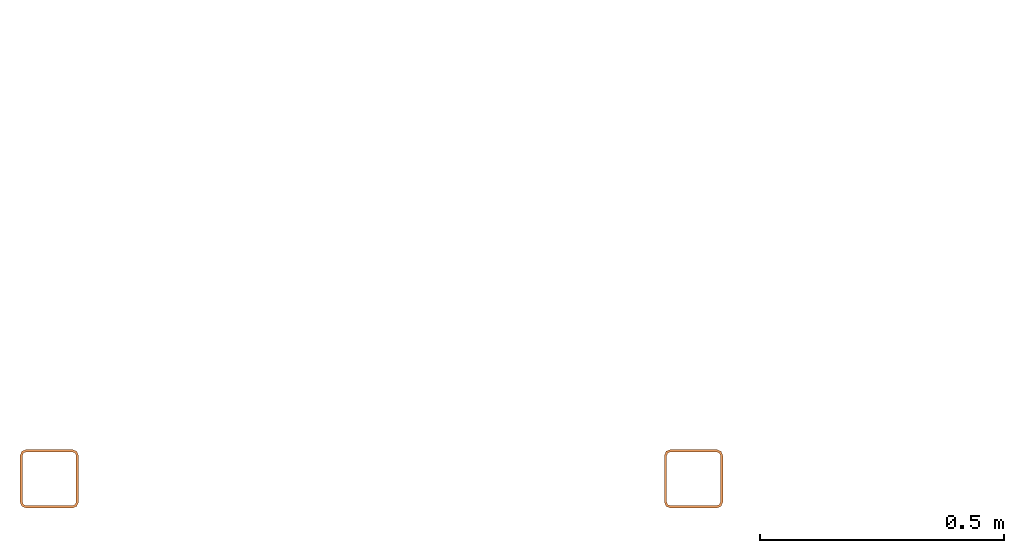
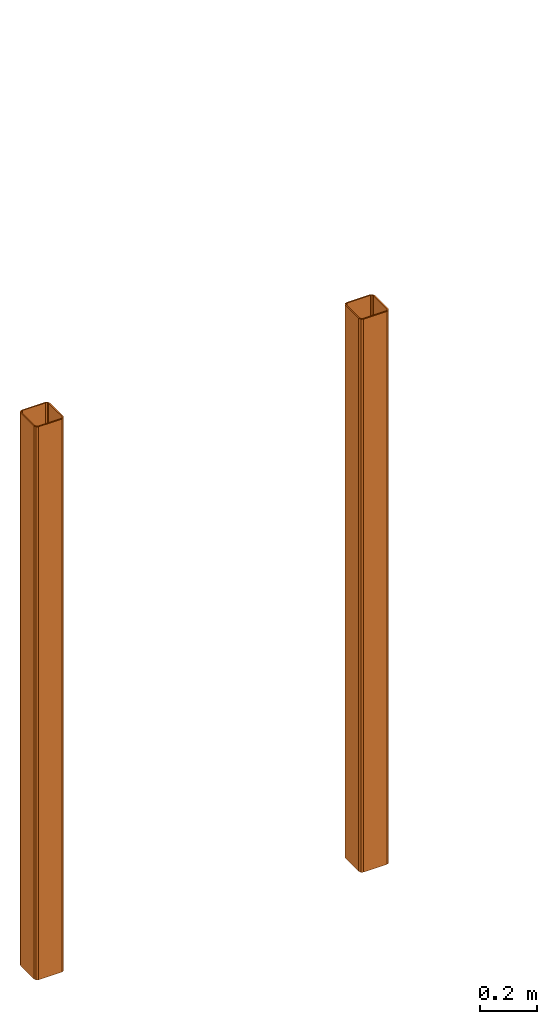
# One storey, part 1 of 2: 2 proxies.
"""IFC2X3 building model written with IfcOpenShell, lengths in millimetres."""

from ifc_helpers import new_model, entity, si_unit, converted_unit, derived_unit, money_unit, direction, frame, origin_with_axes, place, context, subcontext, project, spatial, faceted_brep, material, type_object, element, save


model = new_model("IFC2X3")

# Units and contexts
model_context = context("Model", 3, precision=0.01, world=origin_with_axes(), true_north=direction((0.0, 1.0)))
body_context = subcontext(model_context, "Body", "Model", "MODEL_VIEW")
ifc_project = project(units=[si_unit("LENGTHUNIT", "METRE", prefix="MILLI"), si_unit("AREAUNIT", "SQUARE_METRE"), si_unit("VOLUMEUNIT", "CUBIC_METRE"), converted_unit("PLANEANGLEUNIT", "DEGREE", entity("IfcPlaneAngleMeasure", 0.0174532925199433), si_unit("PLANEANGLEUNIT", "RADIAN"), dimensions=[0, 0, 0, 0, 0, 0, 0]), money_unit("EUR"), converted_unit("TIMEUNIT", "Year", entity("IfcTimeMeasure", 31557600.0), si_unit("TIMEUNIT", "SECOND"), dimensions=[0, 0, 1, 0, 0, 0, 0]), si_unit("MASSUNIT", "GRAM", prefix="KILO"), si_unit("THERMODYNAMICTEMPERATUREUNIT", "DEGREE_CELSIUS"), si_unit("LUMINOUSINTENSITYUNIT", "LUMEN"), si_unit("ENERGYUNIT", "JOULE", prefix="MEGA"), derived_unit("THERMALCONDUCTANCEUNIT", [(si_unit("POWERUNIT", "WATT"), 1), (si_unit("LENGTHUNIT", "METRE"), -1), (si_unit("THERMODYNAMICTEMPERATUREUNIT", "KELVIN"), -1)]), derived_unit("SPECIFICHEATCAPACITYUNIT", [(si_unit("ENERGYUNIT", "JOULE"), 1), (si_unit("MASSUNIT", "GRAM", prefix="KILO"), -1), (si_unit("THERMODYNAMICTEMPERATUREUNIT", "KELVIN"), -1)]), derived_unit("MASSDENSITYUNIT", [(si_unit("MASSUNIT", "GRAM", prefix="KILO"), 1), (si_unit("VOLUMEUNIT", "CUBIC_METRE"), -1)])], contexts=[model_context])

# Site, building, storey
site_placement = place(None, frame((0.0, 0.0, 8650.0), z_axis=(0.0, 0.0, 1.0), x_axis=(1.0, 0.0, 0.0)))
site = spatial("IfcSite", under=ifc_project, at=site_placement, Name="43301:001:0844", CompositionType="ELEMENT")
building_placement = place(site_placement, origin_with_axes())
building = spatial("IfcBuilding", under=site, at=building_placement, Name="Kuressaare Ametikooli tuulikute mehaanikute õppekorpus", CompositionType="ELEMENT")
storey_placement = place(building_placement, frame((0.0, 0.0, -8650.0), z_axis=(0.0, 0.0, 1.0), x_axis=(1.0, 0.0, 0.0)))
storey = spatial("IfcBuildingStorey", under=building, at=storey_placement, Name="Merepind", CompositionType="ELEMENT", Elevation=-8650.0)

# Proxies
ifc_material = material(Name="STEEL/S355")
building_element_proxy_type = type_object("IfcBuildingElementProxyType", Name="RHS120*5 120 x 120", PredefinedType="NOTDEFINED")
proxy_1_placement = place(storey_placement, frame((87796.2273876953, 18953.07806945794, 16710.00000000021), z_axis=(0.0, 0.0, 1.0), x_axis=(-1.0, 0.0, 0.0)))
element("IfcBuildingElementProxy", 1, at=proxy_1_placement, inside=storey, type_object=building_element_proxy_type, material=ifc_material, Name="TERAS_POST", context=body_context, shape_type="Brep", body=[
    faceted_brep([(-52.80330085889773, -52.80330085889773, 2415.800000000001), (-52.80330085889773, -52.80330085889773, 39.99999999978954), (-55.00000000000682, -47.49999999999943, 39.99999999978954), (-55.00000000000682, -47.49999999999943, 2415.800000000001), (-47.49999999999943, -54.99999999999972, 2415.800000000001), (-47.49999999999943, -54.99999999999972, 39.99999999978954), (-47.49999999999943, -59.99999999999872, 39.99999999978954), (-56.33883476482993, -56.33883476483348, 39.99999999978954), (-60.00000000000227, -47.49999999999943, 39.99999999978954), (-60.00000000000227, 47.49999999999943, 39.99999999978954), (-56.33883476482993, 56.33883476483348, 39.99999999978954), (-47.49999999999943, 59.99999999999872, 39.99999999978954), (47.49999999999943, 59.99999999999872, 39.99999999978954), (56.33883476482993, 56.33883476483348, 39.99999999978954), (60.00000000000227, 47.49999999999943, 39.99999999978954), (60.00000000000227, -47.49999999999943, 39.99999999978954), (56.33883476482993, -56.33883476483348, 39.99999999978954), (47.49999999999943, -59.99999999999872, 39.99999999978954), (-52.80330085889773, 52.80330085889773, 39.99999999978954), (-55.00000000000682, 47.49999999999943, 39.99999999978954), (47.49999999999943, -54.99999999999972, 39.99999999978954), (52.80330085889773, -52.80330085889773, 39.99999999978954), (55.00000000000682, -47.49999999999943, 39.99999999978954), (55.00000000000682, 47.49999999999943, 39.99999999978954), (52.80330085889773, 52.80330085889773, 39.99999999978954), (47.49999999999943, 54.99999999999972, 39.99999999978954), (-47.49999999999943, 54.99999999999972, 39.99999999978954), (-55.00000000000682, 47.49999999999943, 2415.800000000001), (56.33883476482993, 56.33883476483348, 2415.800000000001), (47.49999999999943, 59.99999999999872, 2415.800000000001), (-47.49999999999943, 59.99999999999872, 2415.800000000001), (-56.33883476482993, 56.33883476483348, 2415.800000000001), (-60.00000000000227, 47.49999999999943, 2415.800000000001), (-60.00000000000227, -47.49999999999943, 2415.800000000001), (-56.33883476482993, -56.33883476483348, 2415.800000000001), (-47.49999999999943, -59.99999999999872, 2415.800000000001), (47.49999999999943, -59.99999999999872, 2415.800000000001), (56.33883476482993, -56.33883476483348, 2415.800000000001), (60.00000000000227, -47.49999999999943, 2415.800000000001), (60.00000000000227, 47.49999999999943, 2415.800000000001), (-47.49999999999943, 54.99999999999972, 2415.800000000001), (47.49999999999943, 54.99999999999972, 2415.800000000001), (52.80330085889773, 52.80330085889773, 2415.800000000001), (55.00000000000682, 47.49999999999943, 2415.800000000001), (55.00000000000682, -47.49999999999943, 2415.800000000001), (52.80330085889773, -52.80330085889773, 2415.800000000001), (47.49999999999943, -54.99999999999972, 2415.800000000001), (-52.80330085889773, 52.80330085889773, 2415.800000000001)], [[[0, 1, 2, 3]], [[4, 5, 1, 0]], [[6, 7, 8, 9, 10, 11, 12, 13, 14, 15, 16, 17], [18, 19, 2, 1, 5, 20, 21, 22, 23, 24, 25, 26]], [[3, 2, 19, 27]], [[28, 29, 30, 31, 32, 33, 34, 35, 36, 37, 38, 39], [40, 41, 42, 43, 44, 45, 46, 4, 0, 3, 27, 47]], [[46, 20, 5, 4]], [[34, 7, 6, 35]], [[33, 8, 7, 34]], [[32, 9, 8, 33]], [[31, 10, 9, 32]], [[30, 11, 10, 31]], [[29, 12, 11, 30]], [[28, 13, 12, 29]], [[39, 14, 13, 28]], [[38, 15, 14, 39]], [[37, 16, 15, 38]], [[36, 17, 16, 37]], [[35, 6, 17, 36]], [[27, 19, 18, 47]], [[45, 21, 20, 46]], [[44, 22, 21, 45]], [[43, 23, 22, 44]], [[42, 24, 23, 43]], [[41, 25, 24, 42]], [[40, 26, 25, 41]], [[47, 18, 26, 40]]]),
])
proxy_2_placement = place(storey_placement, frame((86476.2273876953, 18953.07806945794, 16710.00000000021), z_axis=(0.0, 0.0, 1.0), x_axis=(-1.0, 0.0, 0.0)))
element("IfcBuildingElementProxy", 2, at=proxy_2_placement, inside=storey, type_object=building_element_proxy_type, material=ifc_material, Name="TERAS_POST", context=body_context, shape_type="Brep", body=[
    faceted_brep([(-52.80330085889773, -52.80330085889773, 2415.800000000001), (-52.80330085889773, -52.80330085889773, 39.99999999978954), (-55.00000000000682, -47.49999999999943, 39.99999999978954), (-55.00000000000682, -47.49999999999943, 2415.800000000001), (-47.49999999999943, -54.99999999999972, 2415.800000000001), (-47.49999999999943, -54.99999999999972, 39.99999999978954), (-47.49999999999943, -59.99999999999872, 39.99999999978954), (-56.33883476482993, -56.33883476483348, 39.99999999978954), (-60.00000000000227, -47.49999999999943, 39.99999999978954), (-60.00000000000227, 47.49999999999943, 39.99999999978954), (-56.33883476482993, 56.33883476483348, 39.99999999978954), (-47.49999999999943, 59.99999999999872, 39.99999999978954), (47.49999999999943, 59.99999999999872, 39.99999999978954), (56.33883476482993, 56.33883476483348, 39.99999999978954), (60.00000000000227, 47.49999999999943, 39.99999999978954), (60.00000000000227, -47.49999999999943, 39.99999999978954), (56.33883476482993, -56.33883476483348, 39.99999999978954), (47.49999999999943, -59.99999999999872, 39.99999999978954), (-52.80330085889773, 52.80330085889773, 39.99999999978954), (-55.00000000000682, 47.49999999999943, 39.99999999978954), (47.49999999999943, -54.99999999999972, 39.99999999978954), (52.80330085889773, -52.80330085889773, 39.99999999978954), (55.00000000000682, -47.49999999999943, 39.99999999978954), (55.00000000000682, 47.49999999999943, 39.99999999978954), (52.80330085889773, 52.80330085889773, 39.99999999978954), (47.49999999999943, 54.99999999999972, 39.99999999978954), (-47.49999999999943, 54.99999999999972, 39.99999999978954), (-55.00000000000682, 47.49999999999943, 2415.800000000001), (56.33883476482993, 56.33883476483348, 2415.800000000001), (47.49999999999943, 59.99999999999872, 2415.800000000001), (-47.49999999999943, 59.99999999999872, 2415.800000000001), (-56.33883476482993, 56.33883476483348, 2415.800000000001), (-60.00000000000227, 47.49999999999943, 2415.800000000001), (-60.00000000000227, -47.49999999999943, 2415.800000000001), (-56.33883476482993, -56.33883476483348, 2415.800000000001), (-47.49999999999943, -59.99999999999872, 2415.800000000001), (47.49999999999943, -59.99999999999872, 2415.800000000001), (56.33883476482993, -56.33883476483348, 2415.800000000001), (60.00000000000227, -47.49999999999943, 2415.800000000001), (60.00000000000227, 47.49999999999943, 2415.800000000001), (-47.49999999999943, 54.99999999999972, 2415.800000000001), (47.49999999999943, 54.99999999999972, 2415.800000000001), (52.80330085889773, 52.80330085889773, 2415.800000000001), (55.00000000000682, 47.49999999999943, 2415.800000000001), (55.00000000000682, -47.49999999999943, 2415.800000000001), (52.80330085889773, -52.80330085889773, 2415.800000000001), (47.49999999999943, -54.99999999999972, 2415.800000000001), (-52.80330085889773, 52.80330085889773, 2415.800000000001)], [[[0, 1, 2, 3]], [[4, 5, 1, 0]], [[6, 7, 8, 9, 10, 11, 12, 13, 14, 15, 16, 17], [18, 19, 2, 1, 5, 20, 21, 22, 23, 24, 25, 26]], [[3, 2, 19, 27]], [[28, 29, 30, 31, 32, 33, 34, 35, 36, 37, 38, 39], [40, 41, 42, 43, 44, 45, 46, 4, 0, 3, 27, 47]], [[46, 20, 5, 4]], [[34, 7, 6, 35]], [[33, 8, 7, 34]], [[32, 9, 8, 33]], [[31, 10, 9, 32]], [[30, 11, 10, 31]], [[29, 12, 11, 30]], [[28, 13, 12, 29]], [[39, 14, 13, 28]], [[38, 15, 14, 39]], [[37, 16, 15, 38]], [[36, 17, 16, 37]], [[35, 6, 17, 36]], [[27, 19, 18, 47]], [[45, 21, 20, 46]], [[44, 22, 21, 45]], [[43, 23, 22, 44]], [[42, 24, 23, 43]], [[41, 25, 24, 42]], [[40, 26, 25, 41]], [[47, 18, 26, 40]]]),
])

save(model, "model.ifc")
